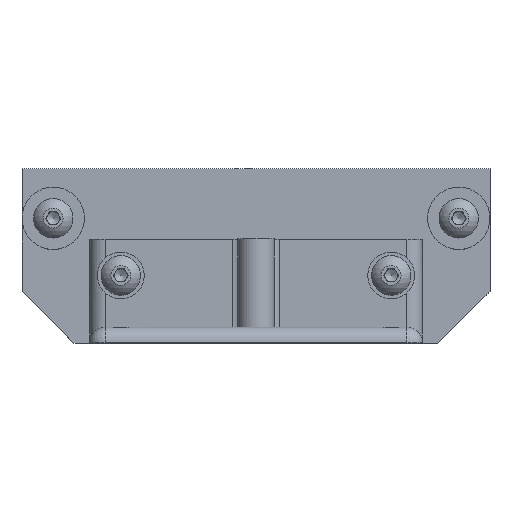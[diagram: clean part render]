
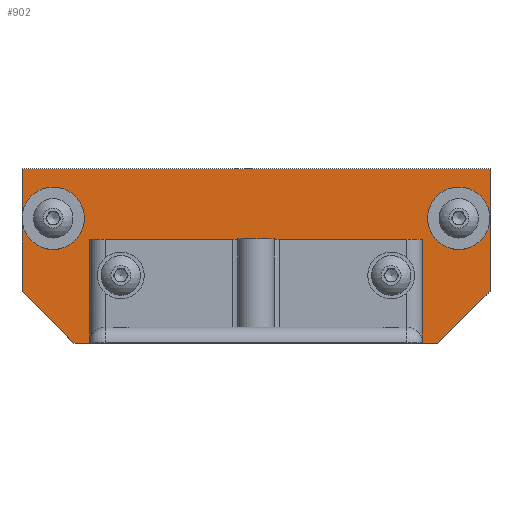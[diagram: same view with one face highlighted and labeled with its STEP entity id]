
A CAD part, top view. The second image highlights one B-rep face of the part: STEP entity #902.
In plain terms, the highlighted planar face has unit normal (0, 0, 1).
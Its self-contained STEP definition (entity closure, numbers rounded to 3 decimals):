
#23 = FACE_BOUND ( 'NONE', #3672, .T. ) ;
#31 = LINE ( 'NONE', #3638, #1335 ) ;
#48 = FACE_BOUND ( 'NONE', #2288, .T. ) ;
#71 = DIRECTION ( 'NONE',  ( 0., 0., -1. ) ) ;
#131 = CARTESIAN_POINT ( 'NONE',  ( 39., 7.25, 4. ) ) ;
#222 = CARTESIAN_POINT ( 'NONE',  ( -35., -16.75, 4. ) ) ;
#223 = CARTESIAN_POINT ( 'NONE',  ( 45., -16.75, 4. ) ) ;
#295 = CARTESIAN_POINT ( 'NONE',  ( 45., 16.75, 4. ) ) ;
#314 = CARTESIAN_POINT ( 'NONE',  ( -24.35, -3.75, 4. ) ) ;
#407 = FACE_BOUND ( 'NONE', #1290, .T. ) ;
#475 = CARTESIAN_POINT ( 'NONE',  ( 35., -16.75, 4. ) ) ;
#520 = ORIENTED_EDGE ( 'NONE', *, *, #2417, .F. ) ;
#564 = EDGE_CURVE ( 'NONE', #1788, #1788, #2304, .T. ) ;
#595 = VERTEX_POINT ( 'NONE', #2569 ) ;
#596 = ORIENTED_EDGE ( 'NONE', *, *, #1895, .T. ) ;
#706 = ORIENTED_EDGE ( 'NONE', *, *, #3045, .T. ) ;
#736 = VERTEX_POINT ( 'NONE', #4334 ) ;
#819 = LINE ( 'NONE', #2995, #3970 ) ;
#825 = AXIS2_PLACEMENT_3D ( 'NONE', #131, #3041, #4090 ) ;
#901 = DIRECTION ( 'NONE',  ( 0.707, -0.707, 0. ) ) ;
#902 = ADVANCED_FACE ( 'NONE', ( #2564, #48, #23, #407, #1838 ), #3654, .F. ) ;
#985 = CIRCLE ( 'NONE', #825, 2.25 ) ;
#1290 = EDGE_LOOP ( 'NONE', ( #4412 ) ) ;
#1335 = VECTOR ( 'NONE', #2198, 1000. ) ;
#1410 = CARTESIAN_POINT ( 'NONE',  ( -36.75, 7.25, 4. ) ) ;
#1525 = ORIENTED_EDGE ( 'NONE', *, *, #3627, .T. ) ;
#1598 = EDGE_LOOP ( 'NONE', ( #2932, #596, #3790, #4305, #706, #1525 ) ) ;
#1672 = EDGE_CURVE ( 'NONE', #4280, #4568, #819, .T. ) ;
#1714 = VERTEX_POINT ( 'NONE', #1921 ) ;
#1758 = CARTESIAN_POINT ( 'NONE',  ( 45., -6.75, 4. ) ) ;
#1788 = VERTEX_POINT ( 'NONE', #314 ) ;
#1838 = FACE_OUTER_BOUND ( 'NONE', #1598, .T. ) ;
#1895 = EDGE_CURVE ( 'NONE', #4568, #1714, #3140, .T. ) ;
#1921 = CARTESIAN_POINT ( 'NONE',  ( 45., -6.75, 4. ) ) ;
#1960 = DIRECTION ( 'NONE',  ( 0., 0., 1. ) ) ;
#2144 = VERTEX_POINT ( 'NONE', #1410 ) ;
#2198 = DIRECTION ( 'NONE',  ( 0., -1., 0. ) ) ;
#2238 = DIRECTION ( 'NONE',  ( 1., 0., 0. ) ) ;
#2288 = EDGE_LOOP ( 'NONE', ( #4108 ) ) ;
#2304 = CIRCLE ( 'NONE', #2903, 1.65 ) ;
#2316 = EDGE_CURVE ( 'NONE', #736, #736, #3556, .T. ) ;
#2344 = CIRCLE ( 'NONE', #2727, 2.25 ) ;
#2366 = DIRECTION ( 'NONE',  ( 0., 0., 1. ) ) ;
#2376 = EDGE_CURVE ( 'NONE', #3534, #3534, #985, .T. ) ;
#2417 = EDGE_CURVE ( 'NONE', #2144, #2144, #2344, .T. ) ;
#2427 = LINE ( 'NONE', #223, #3597 ) ;
#2468 = VECTOR ( 'NONE', #3338, 1000. ) ;
#2564 = FACE_BOUND ( 'NONE', #3757, .T. ) ;
#2569 = CARTESIAN_POINT ( 'NONE',  ( -45., 16.75, 4. ) ) ;
#2705 = LINE ( 'NONE', #4151, #4474 ) ;
#2707 = ORIENTED_EDGE ( 'NONE', *, *, #564, .F. ) ;
#2727 = AXIS2_PLACEMENT_3D ( 'NONE', #3016, #2366, #3451 ) ;
#2796 = AXIS2_PLACEMENT_3D ( 'NONE', #3735, #3349, #3066 ) ;
#2838 = DIRECTION ( 'NONE',  ( 1., 0., 0. ) ) ;
#2883 = CARTESIAN_POINT ( 'NONE',  ( 41.25, 7.25, 4. ) ) ;
#2903 = AXIS2_PLACEMENT_3D ( 'NONE', #4105, #1960, #2238 ) ;
#2932 = ORIENTED_EDGE ( 'NONE', *, *, #1672, .T. ) ;
#2934 = DIRECTION ( 'NONE',  ( -1., 0., 0. ) ) ;
#2975 = VECTOR ( 'NONE', #3164, 1000. ) ;
#2995 = CARTESIAN_POINT ( 'NONE',  ( -45., -16.75, 4. ) ) ;
#3016 = CARTESIAN_POINT ( 'NONE',  ( -39., 7.25, 4. ) ) ;
#3041 = DIRECTION ( 'NONE',  ( 0., 0., 1. ) ) ;
#3045 = EDGE_CURVE ( 'NONE', #595, #4395, #31, .T. ) ;
#3066 = DIRECTION ( 'NONE',  ( 1., 0., 0. ) ) ;
#3140 = LINE ( 'NONE', #1758, #2975 ) ;
#3164 = DIRECTION ( 'NONE',  ( 0.707, 0.707, 0. ) ) ;
#3267 = CARTESIAN_POINT ( 'NONE',  ( 0., 0., 4. ) ) ;
#3268 = CARTESIAN_POINT ( 'NONE',  ( -45., -6.75, 4. ) ) ;
#3279 = VERTEX_POINT ( 'NONE', #295 ) ;
#3338 = DIRECTION ( 'NONE',  ( -1., 0., 0. ) ) ;
#3349 = DIRECTION ( 'NONE',  ( 0., 0., 1. ) ) ;
#3350 = EDGE_CURVE ( 'NONE', #1714, #3279, #2427, .T. ) ;
#3384 = CARTESIAN_POINT ( 'NONE',  ( -45., 16.75, 4. ) ) ;
#3451 = DIRECTION ( 'NONE',  ( 1., 0., 0. ) ) ;
#3534 = VERTEX_POINT ( 'NONE', #2883 ) ;
#3556 = CIRCLE ( 'NONE', #2796, 1.65 ) ;
#3597 = VECTOR ( 'NONE', #4274, 1000. ) ;
#3627 = EDGE_CURVE ( 'NONE', #4395, #4280, #2705, .T. ) ;
#3638 = CARTESIAN_POINT ( 'NONE',  ( -45., -16.75, 4. ) ) ;
#3654 = PLANE ( 'NONE',  #4538 ) ;
#3672 = EDGE_LOOP ( 'NONE', ( #520 ) ) ;
#3735 = CARTESIAN_POINT ( 'NONE',  ( 26., -3.75, 4. ) ) ;
#3757 = EDGE_LOOP ( 'NONE', ( #2707 ) ) ;
#3790 = ORIENTED_EDGE ( 'NONE', *, *, #3350, .T. ) ;
#3970 = VECTOR ( 'NONE', #2838, 1000. ) ;
#4090 = DIRECTION ( 'NONE',  ( 1., 0., 0. ) ) ;
#4105 = CARTESIAN_POINT ( 'NONE',  ( -26., -3.75, 4. ) ) ;
#4108 = ORIENTED_EDGE ( 'NONE', *, *, #2316, .F. ) ;
#4151 = CARTESIAN_POINT ( 'NONE',  ( -35., -16.75, 4. ) ) ;
#4274 = DIRECTION ( 'NONE',  ( 0., 1., 0. ) ) ;
#4280 = VERTEX_POINT ( 'NONE', #222 ) ;
#4305 = ORIENTED_EDGE ( 'NONE', *, *, #4528, .T. ) ;
#4334 = CARTESIAN_POINT ( 'NONE',  ( 27.65, -3.75, 4. ) ) ;
#4395 = VERTEX_POINT ( 'NONE', #3268 ) ;
#4412 = ORIENTED_EDGE ( 'NONE', *, *, #2376, .F. ) ;
#4451 = LINE ( 'NONE', #3384, #2468 ) ;
#4474 = VECTOR ( 'NONE', #901, 1000. ) ;
#4528 = EDGE_CURVE ( 'NONE', #3279, #595, #4451, .T. ) ;
#4538 = AXIS2_PLACEMENT_3D ( 'NONE', #3267, #71, #2934 ) ;
#4568 = VERTEX_POINT ( 'NONE', #475 ) ;
